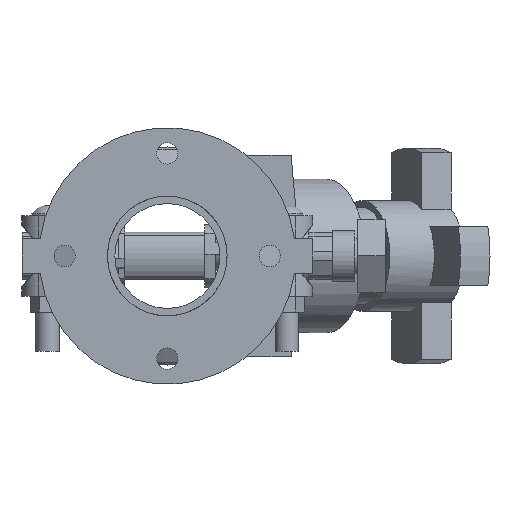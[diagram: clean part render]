
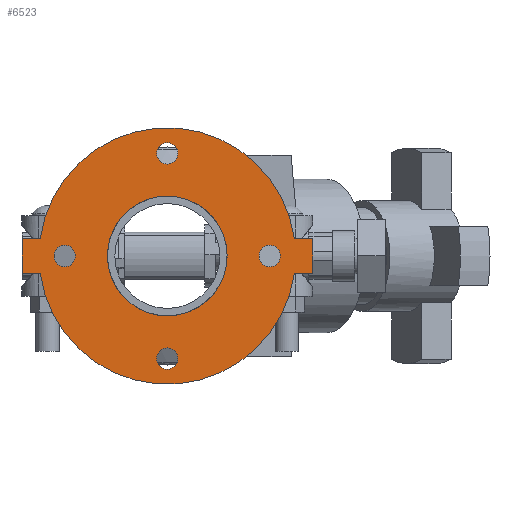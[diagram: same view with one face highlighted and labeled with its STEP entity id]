
A CAD part, front view. The second image highlights one B-rep face of the part: STEP entity #6523.
In plain terms, the highlighted planar face has unit normal (0, -1, 0) as drawn and (0, 0, 1) by its records, which use the part's own axes.
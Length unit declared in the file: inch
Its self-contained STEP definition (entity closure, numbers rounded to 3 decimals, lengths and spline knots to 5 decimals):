
#174=FACE_BOUND('',#824,.T.);
#175=FACE_BOUND('',#825,.T.);
#176=FACE_BOUND('',#826,.T.);
#177=FACE_BOUND('',#827,.T.);
#178=FACE_BOUND('',#828,.T.);
#244=PLANE('',#7095);
#461=FACE_OUTER_BOUND('',#823,.T.);
#823=EDGE_LOOP('',(#4222,#4223,#4224,#4225,#4226,#4227,#4228,#4229));
#824=EDGE_LOOP('',(#4230));
#825=EDGE_LOOP('',(#4231));
#826=EDGE_LOOP('',(#4232));
#827=EDGE_LOOP('',(#4233));
#828=EDGE_LOOP('',(#4234,#4235));
#1245=LINE('',#9953,#1739);
#1246=LINE('',#9956,#1740);
#1249=LINE('',#9961,#1743);
#1250=LINE('',#9964,#1744);
#1252=LINE('',#9967,#1746);
#1253=LINE('',#9969,#1747);
#1739=VECTOR('',#7909,0.3937);
#1740=VECTOR('',#7912,0.3937);
#1743=VECTOR('',#7917,0.3937);
#1744=VECTOR('',#7920,0.3937);
#1746=VECTOR('',#7924,0.3937);
#1747=VECTOR('',#7927,0.3937);
#2217=CIRCLE('',#7066,0.3125);
#2219=CIRCLE('',#7069,0.3125);
#2221=CIRCLE('',#7072,0.3125);
#2223=CIRCLE('',#7075,0.3125);
#2229=CIRCLE('',#7083,3.75);
#2230=CIRCLE('',#7085,1.75);
#2231=CIRCLE('',#7086,1.75);
#2232=CIRCLE('',#7088,3.75);
#2589=VERTEX_POINT('',#9888);
#2591=VERTEX_POINT('',#9894);
#2593=VERTEX_POINT('',#9900);
#2595=VERTEX_POINT('',#9906);
#2607=VERTEX_POINT('',#9933);
#2608=VERTEX_POINT('',#9935);
#2609=VERTEX_POINT('',#9939);
#2610=VERTEX_POINT('',#9941);
#2611=VERTEX_POINT('',#9945);
#2612=VERTEX_POINT('',#9947);
#2613=VERTEX_POINT('',#9951);
#2614=VERTEX_POINT('',#9955);
#2615=VERTEX_POINT('',#9959);
#2616=VERTEX_POINT('',#9963);
#3220=EDGE_CURVE('',#2589,#2589,#2217,.T.);
#3223=EDGE_CURVE('',#2591,#2591,#2219,.T.);
#3226=EDGE_CURVE('',#2593,#2593,#2221,.T.);
#3229=EDGE_CURVE('',#2595,#2595,#2223,.T.);
#3244=EDGE_CURVE('',#2607,#2608,#2229,.T.);
#3246=EDGE_CURVE('',#2610,#2609,#2230,.T.);
#3247=EDGE_CURVE('',#2609,#2610,#2231,.T.);
#3249=EDGE_CURVE('',#2612,#2611,#2232,.T.);
#3252=EDGE_CURVE('',#2608,#2613,#1245,.T.);
#3253=EDGE_CURVE('',#2614,#2612,#1246,.T.);
#3256=EDGE_CURVE('',#2611,#2615,#1249,.T.);
#3257=EDGE_CURVE('',#2616,#2607,#1250,.T.);
#3259=EDGE_CURVE('',#2615,#2616,#1252,.T.);
#3260=EDGE_CURVE('',#2613,#2614,#1253,.T.);
#4222=ORIENTED_EDGE('',*,*,#3256,.T.);
#4223=ORIENTED_EDGE('',*,*,#3259,.T.);
#4224=ORIENTED_EDGE('',*,*,#3257,.T.);
#4225=ORIENTED_EDGE('',*,*,#3244,.T.);
#4226=ORIENTED_EDGE('',*,*,#3252,.T.);
#4227=ORIENTED_EDGE('',*,*,#3260,.T.);
#4228=ORIENTED_EDGE('',*,*,#3253,.T.);
#4229=ORIENTED_EDGE('',*,*,#3249,.T.);
#4230=ORIENTED_EDGE('',*,*,#3220,.T.);
#4231=ORIENTED_EDGE('',*,*,#3223,.T.);
#4232=ORIENTED_EDGE('',*,*,#3226,.T.);
#4233=ORIENTED_EDGE('',*,*,#3229,.T.);
#4234=ORIENTED_EDGE('',*,*,#3246,.T.);
#4235=ORIENTED_EDGE('',*,*,#3247,.T.);
#6523=ADVANCED_FACE('',(#461,#174,#175,#176,#177,#178),#244,.T.);
#7066=AXIS2_PLACEMENT_3D('',#9889,#7845,#7846);
#7069=AXIS2_PLACEMENT_3D('',#9895,#7852,#7853);
#7072=AXIS2_PLACEMENT_3D('',#9901,#7859,#7860);
#7075=AXIS2_PLACEMENT_3D('',#9907,#7866,#7867);
#7083=AXIS2_PLACEMENT_3D('',#9937,#7891,#7892);
#7085=AXIS2_PLACEMENT_3D('',#9942,#7896,#7897);
#7086=AXIS2_PLACEMENT_3D('',#9943,#7898,#7899);
#7088=AXIS2_PLACEMENT_3D('',#9948,#7903,#7904);
#7095=AXIS2_PLACEMENT_3D('',#9970,#7928,#7929);
#7845=DIRECTION('center_axis',(0.,0.,-1.));
#7846=DIRECTION('ref_axis',(0.,1.,0.));
#7852=DIRECTION('center_axis',(0.,0.,-1.));
#7853=DIRECTION('ref_axis',(1.,0.,0.));
#7859=DIRECTION('center_axis',(0.,0.,-1.));
#7860=DIRECTION('ref_axis',(0.,-1.,0.));
#7866=DIRECTION('center_axis',(0.,0.,-1.));
#7867=DIRECTION('ref_axis',(-1.,0.,0.));
#7891=DIRECTION('center_axis',(0.,0.,1.));
#7892=DIRECTION('ref_axis',(-1.,0.,0.));
#7896=DIRECTION('center_axis',(0.,0.,-1.));
#7897=DIRECTION('ref_axis',(-1.,0.,0.));
#7898=DIRECTION('center_axis',(0.,0.,-1.));
#7899=DIRECTION('ref_axis',(-1.,0.,0.));
#7903=DIRECTION('center_axis',(0.,0.,1.));
#7904=DIRECTION('ref_axis',(-1.,0.,0.));
#7909=DIRECTION('',(0.,1.,0.));
#7912=DIRECTION('',(0.,-1.,0.));
#7917=DIRECTION('',(0.,-1.,0.));
#7920=DIRECTION('',(0.,1.,0.));
#7924=DIRECTION('',(1.,0.,0.));
#7927=DIRECTION('',(-1.,0.,0.));
#7928=DIRECTION('center_axis',(0.,0.,1.));
#7929=DIRECTION('ref_axis',(1.,0.,0.));
#9888=CARTESIAN_POINT('',(0.,2.6875,0.5));
#9889=CARTESIAN_POINT('Origin',(0.,3.,0.5));
#9894=CARTESIAN_POINT('',(2.6875,0.,0.5));
#9895=CARTESIAN_POINT('Origin',(3.,0.,0.5));
#9900=CARTESIAN_POINT('',(0.,-2.6875,0.5));
#9901=CARTESIAN_POINT('Origin',(0.,-3.,0.5));
#9906=CARTESIAN_POINT('',(-2.6875,0.,0.5));
#9907=CARTESIAN_POINT('Origin',(-3.,0.,0.5));
#9933=CARTESIAN_POINT('',(0.5,-3.71652,0.5));
#9935=CARTESIAN_POINT('',(0.5,3.71652,0.5));
#9937=CARTESIAN_POINT('Origin',(0.,0.,0.5));
#9939=CARTESIAN_POINT('',(1.75,0.,0.5));
#9941=CARTESIAN_POINT('',(0.5,1.67705,0.5));
#9942=CARTESIAN_POINT('Origin',(0.,0.,0.5));
#9943=CARTESIAN_POINT('Origin',(0.,0.,0.5));
#9945=CARTESIAN_POINT('',(-0.5,-3.71652,0.5));
#9947=CARTESIAN_POINT('',(-0.5,3.71652,0.5));
#9948=CARTESIAN_POINT('Origin',(0.,0.,0.5));
#9951=CARTESIAN_POINT('',(0.5,4.25,0.5));
#9953=CARTESIAN_POINT('',(0.5,4.25,0.5));
#9955=CARTESIAN_POINT('',(-0.5,4.25,0.5));
#9956=CARTESIAN_POINT('',(-0.5,-4.25,0.5));
#9959=CARTESIAN_POINT('',(-0.5,-4.25,0.5));
#9961=CARTESIAN_POINT('',(-0.5,-4.25,0.5));
#9963=CARTESIAN_POINT('',(0.5,-4.25,0.5));
#9964=CARTESIAN_POINT('',(0.5,4.25,0.5));
#9967=CARTESIAN_POINT('',(0.5,-4.25,0.5));
#9969=CARTESIAN_POINT('',(-0.5,4.25,0.5));
#9970=CARTESIAN_POINT('Origin',(0.,0.,0.5));
